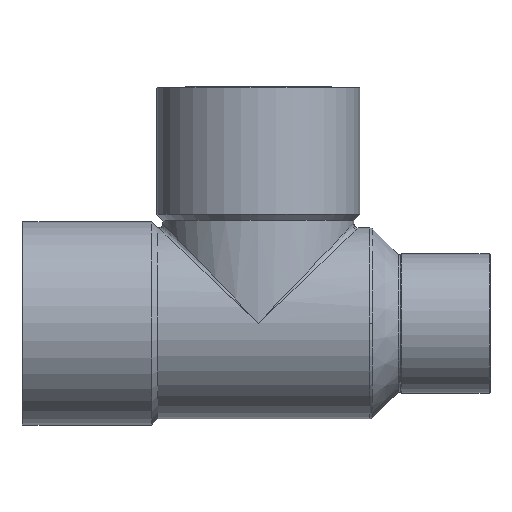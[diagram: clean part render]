
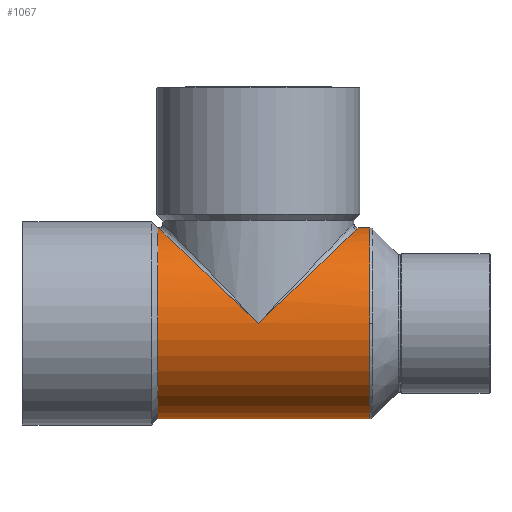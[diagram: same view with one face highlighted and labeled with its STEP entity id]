
A CAD part, top view. The second image highlights one B-rep face of the part: STEP entity #1067.
In plain terms, the highlighted cylindrical face has radius 21 mm (diameter 42 mm), a partial arc.
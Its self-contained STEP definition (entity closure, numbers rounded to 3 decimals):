
#337=CARTESIAN_POINT('',(-22.087,21.,0.0));
#338=VERTEX_POINT('',#337);
#354=CARTESIAN_POINT('',(-22.087,-21.,0.));
#355=VERTEX_POINT('',#354);
#362=CARTESIAN_POINT('',(-22.087,0.0,0.0));
#363=DIRECTION('',(1.0,0.0,0.0));
#364=DIRECTION('',(0.0,1.0,0.0));
#365=AXIS2_PLACEMENT_3D('',#362,#363,#364);
#366=CIRCLE('',#365,21.);
#367=EDGE_CURVE('',#338,#355,#366,.T.);
#404=CARTESIAN_POINT('',(0.0,0.0,21.0));
#405=VERTEX_POINT('',#404);
#1003=CARTESIAN_POINT('',(1.417,0.0,0.0));
#1004=DIRECTION('',(1.0,0.0,0.0));
#1005=DIRECTION('',(0.0,1.0,0.0));
#1006=AXIS2_PLACEMENT_3D('',#1003,#1004,#1005);
#1007=CYLINDRICAL_SURFACE('',#1006,21.0);
#1008=CARTESIAN_POINT('',(-22.,21.0,0.));
#1009=VERTEX_POINT('',#1008);
#1010=CARTESIAN_POINT('',(-22.087,21.,0.0));
#1011=DIRECTION('',(1.0,0.0,0.0));
#1012=VECTOR('',#1011,0.087);
#1013=LINE('',#1010,#1012);
#1014=EDGE_CURVE('',#338,#1009,#1013,.T.);
#1015=ORIENTED_EDGE('',*,*,#1014,.F.);
#1016=ORIENTED_EDGE('',*,*,#367,.T.);
#1017=CARTESIAN_POINT('',(24.507,-21.0,0.));
#1018=VERTEX_POINT('',#1017);
#1019=CARTESIAN_POINT('',(24.507,-21.0,0.));
#1020=DIRECTION('',(-1.0,0.0,0.0));
#1021=VECTOR('',#1020,46.594);
#1022=LINE('',#1019,#1021);
#1023=EDGE_CURVE('',#1018,#355,#1022,.T.);
#1024=ORIENTED_EDGE('',*,*,#1023,.F.);
#1025=CARTESIAN_POINT('',(24.507,0.,21.0));
#1026=VERTEX_POINT('',#1025);
#1027=CARTESIAN_POINT('',(24.507,0.0,0.0));
#1028=DIRECTION('',(1.0,0.0,0.0));
#1029=DIRECTION('',(0.0,-1.0,0.0));
#1030=AXIS2_PLACEMENT_3D('',#1027,#1028,#1029);
#1031=CIRCLE('',#1030,21.0);
#1032=EDGE_CURVE('',#1026,#1018,#1031,.T.);
#1033=ORIENTED_EDGE('',*,*,#1032,.F.);
#1034=CARTESIAN_POINT('',(24.507,21.0,0.0));
#1035=VERTEX_POINT('',#1034);
#1036=CARTESIAN_POINT('',(24.507,0.0,0.0));
#1037=DIRECTION('',(1.0,0.0,0.0));
#1038=DIRECTION('',(0.0,-1.0,0.0));
#1039=AXIS2_PLACEMENT_3D('',#1036,#1037,#1038);
#1040=CIRCLE('',#1039,21.0);
#1041=EDGE_CURVE('',#1035,#1026,#1040,.T.);
#1042=ORIENTED_EDGE('',*,*,#1041,.F.);
#1043=CARTESIAN_POINT('',(22.,21.0,0.));
#1044=VERTEX_POINT('',#1043);
#1045=CARTESIAN_POINT('',(22.,21.0,0.));
#1046=DIRECTION('',(1.0,0.0,0.0));
#1047=VECTOR('',#1046,2.507);
#1048=LINE('',#1045,#1047);
#1049=EDGE_CURVE('',#1044,#1035,#1048,.T.);
#1050=ORIENTED_EDGE('',*,*,#1049,.F.);
#1051=CARTESIAN_POINT('',(0.0,0.0,0.0));
#1052=DIRECTION('',(-0.69,0.723,0.0));
#1053=DIRECTION('',(0.723,0.69,0.0));
#1054=AXIS2_PLACEMENT_3D('',#1051,#1052,#1053);
#1055=ELLIPSE('',#1054,30.414,21.);
#1056=EDGE_CURVE('',#405,#1044,#1055,.T.);
#1057=ORIENTED_EDGE('',*,*,#1056,.F.);
#1058=CARTESIAN_POINT('',(0.0,0.0,0.0));
#1059=DIRECTION('',(0.69,0.723,0.0));
#1060=DIRECTION('',(-0.723,0.69,0.0));
#1061=AXIS2_PLACEMENT_3D('',#1058,#1059,#1060);
#1062=ELLIPSE('',#1061,30.414,21.);
#1063=EDGE_CURVE('',#1009,#405,#1062,.T.);
#1064=ORIENTED_EDGE('',*,*,#1063,.F.);
#1065=EDGE_LOOP('',(#1015,#1016,#1024,#1033,#1042,#1050,#1057,#1064));
#1066=FACE_OUTER_BOUND('',#1065,.T.);
#1067=ADVANCED_FACE('',(#1066),#1007,.T.);
